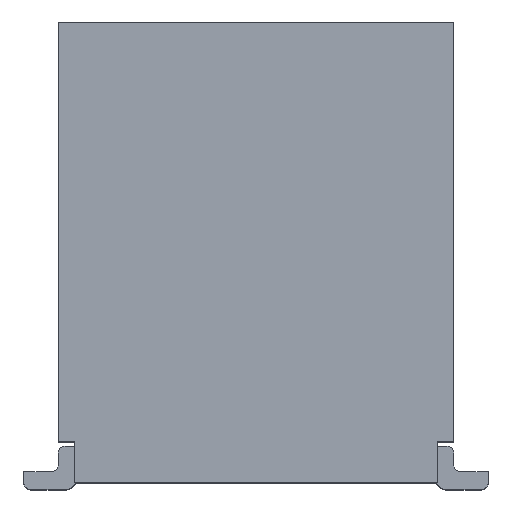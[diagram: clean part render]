
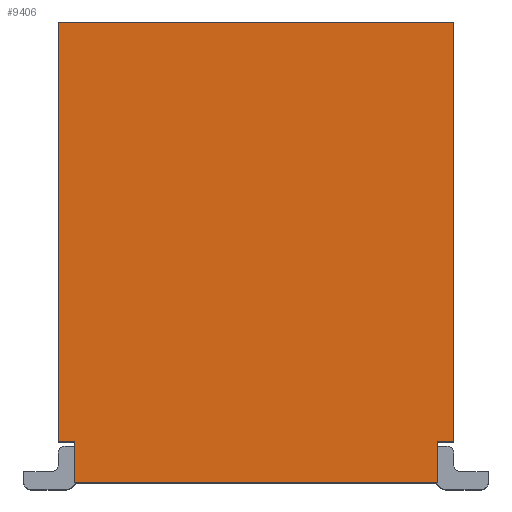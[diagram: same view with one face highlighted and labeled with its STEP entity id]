
A CAD part, top view. The second image highlights one B-rep face of the part: STEP entity #9406.
In plain terms, the highlighted planar face has unit normal (0, 0, 1).
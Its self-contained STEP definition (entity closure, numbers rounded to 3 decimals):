
#406 = DIRECTION ( 'NONE',  ( 0., 1., 0. ) ) ;
#433 = LINE ( 'NONE', #6164, #6695 ) ;
#507 = LINE ( 'NONE', #8571, #4338 ) ;
#554 = EDGE_CURVE ( 'NONE', #3196, #7322, #507, .T. ) ;
#918 = VECTOR ( 'NONE', #4733, 1000. ) ;
#987 = CARTESIAN_POINT ( 'NONE',  ( -1.44, -0.1, 5.585 ) ) ;
#1129 = LINE ( 'NONE', #7011, #6405 ) ;
#1232 = EDGE_CURVE ( 'NONE', #7322, #8313, #1767, .T. ) ;
#1266 = DIRECTION ( 'NONE',  ( 0., -1., 0. ) ) ;
#1315 = PLANE ( 'NONE',  #4343 ) ;
#1399 = DIRECTION ( 'NONE',  ( 0., 0., 1. ) ) ;
#1698 = LINE ( 'NONE', #4667, #9487 ) ;
#1726 = CARTESIAN_POINT ( 'NONE',  ( -1.32, -3.45, 5.585 ) ) ;
#1744 = VECTOR ( 'NONE', #3867, 1000. ) ;
#1749 = DIRECTION ( 'NONE',  ( 0., -1., 0. ) ) ;
#1767 = LINE ( 'NONE', #6285, #2497 ) ;
#2142 = CARTESIAN_POINT ( 'NONE',  ( 1.35, -3.15, 5.585 ) ) ;
#2497 = VECTOR ( 'NONE', #406, 1000. ) ;
#2989 = CARTESIAN_POINT ( 'NONE',  ( -1.44, -3.15, 5.585 ) ) ;
#3000 = EDGE_CURVE ( 'NONE', #4126, #9543, #5463, .T. ) ;
#3196 = VERTEX_POINT ( 'NONE', #3748 ) ;
#3214 = DIRECTION ( 'NONE',  ( 0., 1., 0. ) ) ;
#3283 = ORIENTED_EDGE ( 'NONE', *, *, #4757, .F. ) ;
#3388 = EDGE_CURVE ( 'NONE', #5349, #4126, #433, .T. ) ;
#3396 = EDGE_CURVE ( 'NONE', #6776, #4622, #1698, .T. ) ;
#3542 = ORIENTED_EDGE ( 'NONE', *, *, #3388, .T. ) ;
#3748 = CARTESIAN_POINT ( 'NONE',  ( 1.32, -3.15, 5.585 ) ) ;
#3867 = DIRECTION ( 'NONE',  ( 1., 0., 0. ) ) ;
#4004 = VECTOR ( 'NONE', #5159, 1000. ) ;
#4126 = VERTEX_POINT ( 'NONE', #1726 ) ;
#4142 = ORIENTED_EDGE ( 'NONE', *, *, #9000, .T. ) ;
#4338 = VECTOR ( 'NONE', #8622, 1000. ) ;
#4343 = AXIS2_PLACEMENT_3D ( 'NONE', #7241, #1399, #1266 ) ;
#4541 = CARTESIAN_POINT ( 'NONE',  ( 1.32, -3.15, 5.585 ) ) ;
#4622 = VERTEX_POINT ( 'NONE', #987 ) ;
#4667 = CARTESIAN_POINT ( 'NONE',  ( -1.44, -21.25, 5.585 ) ) ;
#4733 = DIRECTION ( 'NONE',  ( 0., 1., 0. ) ) ;
#4757 = EDGE_CURVE ( 'NONE', #4622, #8313, #1129, .T. ) ;
#5015 = LINE ( 'NONE', #2142, #4004 ) ;
#5095 = FACE_OUTER_BOUND ( 'NONE', #8763, .T. ) ;
#5159 = DIRECTION ( 'NONE',  ( 1., 0., 0. ) ) ;
#5203 = ORIENTED_EDGE ( 'NONE', *, *, #3396, .F. ) ;
#5349 = VERTEX_POINT ( 'NONE', #6751 ) ;
#5463 = LINE ( 'NONE', #8434, #1744 ) ;
#6164 = CARTESIAN_POINT ( 'NONE',  ( -1.32, -3.155, 5.585 ) ) ;
#6179 = ORIENTED_EDGE ( 'NONE', *, *, #1232, .T. ) ;
#6285 = CARTESIAN_POINT ( 'NONE',  ( 1.44, -21.25, 5.585 ) ) ;
#6320 = DIRECTION ( 'NONE',  ( 1., 0., 0. ) ) ;
#6405 = VECTOR ( 'NONE', #6320, 1000. ) ;
#6695 = VECTOR ( 'NONE', #1749, 1000. ) ;
#6751 = CARTESIAN_POINT ( 'NONE',  ( -1.32, -3.15, 5.585 ) ) ;
#6776 = VERTEX_POINT ( 'NONE', #2989 ) ;
#6929 = CARTESIAN_POINT ( 'NONE',  ( 1.44, -0.1, 5.585 ) ) ;
#7011 = CARTESIAN_POINT ( 'NONE',  ( -1.47, -0.1, 5.585 ) ) ;
#7241 = CARTESIAN_POINT ( 'NONE',  ( 0., -1.1, 5.585 ) ) ;
#7313 = ORIENTED_EDGE ( 'NONE', *, *, #554, .T. ) ;
#7322 = VERTEX_POINT ( 'NONE', #8470 ) ;
#8229 = LINE ( 'NONE', #4541, #918 ) ;
#8261 = CARTESIAN_POINT ( 'NONE',  ( 1.32, -3.45, 5.585 ) ) ;
#8313 = VERTEX_POINT ( 'NONE', #6929 ) ;
#8434 = CARTESIAN_POINT ( 'NONE',  ( -0.127, -3.45, 5.585 ) ) ;
#8470 = CARTESIAN_POINT ( 'NONE',  ( 1.44, -3.15, 5.585 ) ) ;
#8475 = ORIENTED_EDGE ( 'NONE', *, *, #8749, .T. ) ;
#8571 = CARTESIAN_POINT ( 'NONE',  ( 1.35, -3.15, 5.585 ) ) ;
#8622 = DIRECTION ( 'NONE',  ( 1., 0., 0. ) ) ;
#8749 = EDGE_CURVE ( 'NONE', #9543, #3196, #8229, .T. ) ;
#8763 = EDGE_LOOP ( 'NONE', ( #6179, #3283, #5203, #4142, #3542, #8998, #8475, #7313 ) ) ;
#8998 = ORIENTED_EDGE ( 'NONE', *, *, #3000, .T. ) ;
#9000 = EDGE_CURVE ( 'NONE', #6776, #5349, #5015, .T. ) ;
#9406 = ADVANCED_FACE ( 'NONE', ( #5095 ), #1315, .T. ) ;
#9487 = VECTOR ( 'NONE', #3214, 1000. ) ;
#9543 = VERTEX_POINT ( 'NONE', #8261 ) ;
